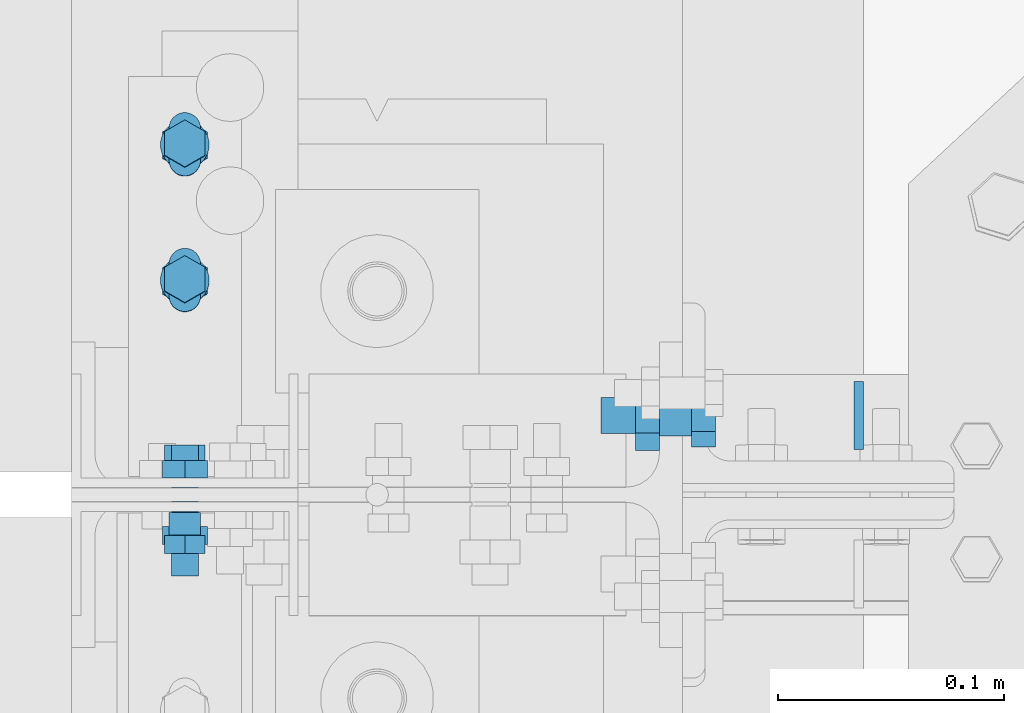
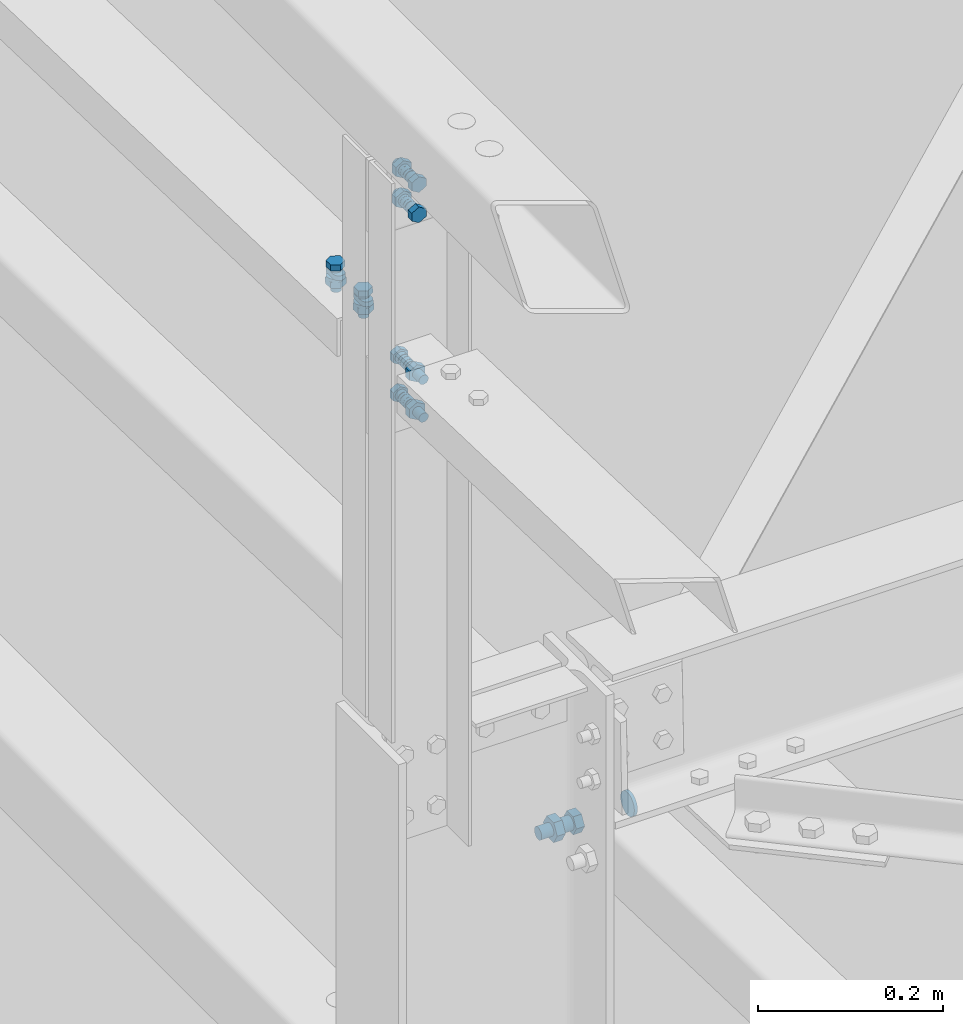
# One storey, part 237 of 362: 5 mechanical fasteners.
"""IFC2X3 building model written with IfcOpenShell, lengths in millimetres."""

import ifcopenshell
import ifcopenshell.guid

model = None  # the IFC model being written
_history = None  # IfcOwnerHistory: only IFC2X3 demands one
_inside = {}  # id of a spatial element -> (the spatial element, [elements in it])
_under = {}  # id of a project, library or spatial element -> (it, [spatial elements below it])
_declared = {}  # id of a project -> (the project, [libraries it declares])
_typed = {}  # id of a type object -> (the type object, [elements of that type])
_made_of = {}  # id of a material, layer set ... -> (it, [elements and type objects made of it])


def new_model(schema):
    """Start an empty IFC model of exactly this schema.

    Asked for "IFC4X3", IfcOpenShell would pick the latest addendum, in which some entities
    have other attributes; the version numbers below select the first issue.
    IFC2X3 requires an IfcOwnerHistory on every rooted entity: one is made here for all.
    """
    global model, _history
    if schema == "IFC4X3":
        model = ifcopenshell.file(schema_version=(4, 3, 0, 0))
    else:
        model = ifcopenshell.file(schema=schema)
    _inside.clear()
    _under.clear()
    _declared.clear()
    _typed.clear()
    _made_of.clear()
    _history = None
    if model.schema == "IFC2X3":
        org = make("IfcOrganization", Name="unknown")
        user = make(
            "IfcPersonAndOrganization",
            ThePerson=make("IfcPerson", FamilyName="unknown"),
            TheOrganization=org,
        )
        app = make(
            "IfcApplication",
            ApplicationDeveloper=org,
            Version="unknown",
            ApplicationFullName="unknown",
            ApplicationIdentifier="unknown",
        )
        _history = make(
            "IfcOwnerHistory",
            OwningUser=user,
            OwningApplication=app,
            ChangeAction="ADDED",
            CreationDate=0,
        )
    return model


def make(cls, **values):
    """One entity of the class cls with the attributes given. An attribute that is None is left unset."""
    return model.create_entity(
        cls, **{name: value for name, value in values.items() if value is not None}
    )


def rooted(cls, **values):
    """An entity with a GlobalId (a new one), such as an element, a storey or a relation."""
    return make(cls, GlobalId=ifcopenshell.guid.new(), OwnerHistory=_history, **values)


def si_unit(unit_type, name, prefix=None):
    """IfcSIUnit, for example si_unit("LENGTHUNIT", "METRE", prefix="MILLI")."""
    return make("IfcSIUnit", UnitType=unit_type, Prefix=prefix, Name=name)


def assignment(units):
    """IfcUnitAssignment: the units of a project."""
    return None if units is None else make("IfcUnitAssignment", Units=units)


def point(xyz):
    """IfcCartesianPoint."""
    return None if xyz is None else make("IfcCartesianPoint", Coordinates=xyz)


def direction(xyz):
    """IfcDirection."""
    return None if xyz is None else make("IfcDirection", DirectionRatios=xyz)


def frame(location, z_axis=None, x_axis=None):
    """IfcAxis2Placement3D, a coordinate frame: its origin and axes. An axis left out is left unset."""
    return make(
        "IfcAxis2Placement3D",
        Location=point(location),
        Axis=direction(z_axis),
        RefDirection=direction(x_axis),
    )


def frame_2d(location, x_axis=None):
    """IfcAxis2Placement2D, a coordinate frame in the plane: its origin and x axis."""
    return make(
        "IfcAxis2Placement2D", Location=point(location), RefDirection=direction(x_axis)
    )


def origin_with_axes():
    """The frame at (0, 0, 0) with the z axis (0, 0, 1) and the x axis (1, 0, 0) written out."""
    return frame((0.0, 0.0, 0.0), z_axis=(0.0, 0.0, 1.0), x_axis=(1.0, 0.0, 0.0))


def origin_2d_with_axis():
    """The frame at (0, 0) in the plane with the x axis (1, 0) written out."""
    return frame_2d((0.0, 0.0), x_axis=(1.0, 0.0))


def place(relative_to, where):
    """IfcLocalPlacement: puts the frame where relative to a parent placement (None: the world)."""
    return make(
        "IfcLocalPlacement", PlacementRelTo=relative_to, RelativePlacement=where
    )


def context(
    kind, dimensions, precision=None, world=None, true_north=None, identifier=None
):
    """IfcGeometricRepresentationContext, for example the 3D "Model" context."""
    return make(
        "IfcGeometricRepresentationContext",
        ContextIdentifier=identifier,
        ContextType=kind,
        CoordinateSpaceDimension=dimensions,
        Precision=precision,
        WorldCoordinateSystem=world,
        TrueNorth=true_north,
    )


def subcontext(parent, identifier, kind, view, scale=None):
    """IfcGeometricRepresentationSubContext, for example "Body" below "Model"."""
    return make(
        "IfcGeometricRepresentationSubContext",
        ContextIdentifier=identifier,
        ContextType=kind,
        ParentContext=parent,
        TargetScale=scale,
        TargetView=view,
    )


def project(units=None, contexts=None):
    """IfcProject with its units and contexts."""
    return rooted(
        "IfcProject",
        Name="project",
        RepresentationContexts=contexts,
        UnitsInContext=assignment(units),
    )


def spatial(cls, under=None, at=None, **own):
    """A site, building, storey or space (cls), placed at a placement, below another one or the project."""
    s = rooted(cls, ObjectPlacement=at, **own)
    if under is not None:
        _under.setdefault(under.id(), (under, []))[1].append(s)
    return s


def polyline(points):
    """IfcPolyline through the points."""
    return make("IfcPolyline", Points=[point(p) for p in points])


def circle_curve(where, radius):
    """IfcCircle in the frame where."""
    return make("IfcCircle", Position=where, Radius=radius)


def parameter(value):
    """IfcParameterValue: where a trimmed curve begins or ends, as a parameter of its basis curve."""
    return model.create_entity("IfcParameterValue", value)


def trimmed(basis, trim1, trim2, sense, master):
    """IfcTrimmedCurve: the piece of a basis curve between two trims."""
    return make(
        "IfcTrimmedCurve",
        BasisCurve=basis,
        Trim1=trim1,
        Trim2=trim2,
        SenseAgreement=sense,
        MasterRepresentation=master,
    )


def segment(curve, same_sense, transition):
    """IfcCompositeCurveSegment."""
    return make(
        "IfcCompositeCurveSegment",
        Transition=transition,
        SameSense=same_sense,
        ParentCurve=curve,
    )


def composite_curve(segments, self_intersect=None):
    """IfcCompositeCurve: segments joined end to end."""
    return make("IfcCompositeCurve", Segments=segments, SelfIntersect=self_intersect)


def profile(cls, at=None, kind="AREA", **sizes):
    """A parametric profile (cls). Its sizes go by their IFC names, for example OverallWidth=200.0."""
    return make(cls, ProfileType=kind, Position=at, **sizes)


def circle(**sizes):
    """IfcCircleProfileDef."""
    return profile("IfcCircleProfileDef", **sizes)


def outline(outer, holes=None, kind="AREA"):
    """IfcArbitraryClosedProfileDef: a profile drawn as a closed curve; with holes, ...WithVoids."""
    if holes is None:
        return make("IfcArbitraryClosedProfileDef", ProfileType=kind, OuterCurve=outer)
    return make(
        "IfcArbitraryProfileDefWithVoids",
        ProfileType=kind,
        OuterCurve=outer,
        InnerCurves=holes,
    )


def extrude(swept, where, along, depth):
    """IfcExtrudedAreaSolid: the profile swept, set in the frame where, extruded along a direction by depth."""
    return make(
        "IfcExtrudedAreaSolid",
        SweptArea=swept,
        Position=where,
        ExtrudedDirection=direction(along),
        Depth=depth,
    )


def shape(context_of_items, identifier, shape_type, items):
    """IfcShapeRepresentation: the items that make up one representation, for example the "Body"."""
    return make(
        "IfcShapeRepresentation",
        ContextOfItems=context_of_items,
        RepresentationIdentifier=identifier,
        RepresentationType=shape_type,
        Items=items,
    )


def source(mapping_origin, context_of_items, identifier, shape_type, items):
    """IfcRepresentationMap: a shape defined once, which mapped items show again and again."""
    return make(
        "IfcRepresentationMap",
        MappingOrigin=mapping_origin,
        MappedRepresentation=shape(context_of_items, identifier, shape_type, items),
    )


def transform(
    local_origin,
    x_axis=None,
    y_axis=None,
    z_axis=None,
    scale=None,
    scale2=None,
    scale3=None,
    uniform=True,
):
    """IfcCartesianTransformationOperator3D, or its non-uniform kind. x_axis, y_axis, z_axis: its Axis1, 2, 3."""
    if uniform:
        return make(
            "IfcCartesianTransformationOperator3D",
            Axis1=direction(x_axis),
            Axis2=direction(y_axis),
            LocalOrigin=point(local_origin),
            Scale=scale,
            Axis3=direction(z_axis),
        )
    return make(
        "IfcCartesianTransformationOperator3DnonUniform",
        Axis1=direction(x_axis),
        Axis2=direction(y_axis),
        LocalOrigin=point(local_origin),
        Scale=scale,
        Axis3=direction(z_axis),
        Scale2=scale2,
        Scale3=scale3,
    )


def mapped(mapping_source, mapping_target):
    """IfcMappedItem: shows the shape of a source again, moved by a transform."""
    return make(
        "IfcMappedItem", MappingSource=mapping_source, MappingTarget=mapping_target
    )


def material(Name=None, Category=None):
    """IfcMaterial."""
    return make("IfcMaterial", Name=Name, Category=Category)


def made_of(thing, what):
    """Note that an element or type object is made of a material, layer set ...; save() writes the relation."""
    if what is not None:
        _made_of.setdefault(what.id(), (what, []))[1].append(thing)
    return thing


def type_object(cls, material=None, **own):
    """A type object (cls), such as IfcWallType, which elements share."""
    return made_of(rooted(cls, **own), material)


def element(
    cls,
    number,
    at=None,
    inside=None,
    cuts=None,
    type_object=None,
    material=None,
    context=None,
    identifier="Body",
    shape_type=None,
    held_by="IfcProductDefinitionShape",
    body=None,
    shapes=None,
    **own,
):
    """One element of the class cls, such as IfcWall. Its Tag is "e" and its number.

    at: its placement. inside: the storey or other place that contains it. cuts: it is an
    opening in that element (IfcRelVoidsElement). A single representation is given by context,
    identifier, shape_type and body (its items); several are given by shapes. held_by: the class
    of the entity that holds the representations. save() writes the other relations.
    """
    e = rooted(cls, Tag="e%d" % number, ObjectPlacement=at, **own)
    if body is not None:
        shapes = [shape(context, identifier, shape_type, body)]
    if shapes is not None:
        e.Representation = make(held_by, Representations=shapes)
    if inside is not None:
        _inside.setdefault(inside.id(), (inside, []))[1].append(e)
    if cuts is not None:
        rooted(
            "IfcRelVoidsElement", RelatingBuildingElement=cuts, RelatedOpeningElement=e
        )
    if type_object is not None:
        _typed.setdefault(type_object.id(), (type_object, []))[1].append(e)
    return made_of(e, material)


def aggregate(whole, parts):
    """IfcRelAggregates: a whole, such as a stair, and the parts it consists of."""
    return rooted("IfcRelAggregates", RelatingObject=whole, RelatedObjects=parts)


def save(model, path):
    """Write the relations noted so far, then the file.

    IfcRelAggregates (storeys below a building ...), IfcRelContainedInSpatialStructure (elements
    in a storey), IfcRelDefinesByType, IfcRelAssociatesMaterial and IfcRelDeclares: one each for
    every whole, place, type object, material and project.
    """
    for whole, parts in _under.values():
        aggregate(whole, parts)
    for where, things in _inside.values():
        rooted(
            "IfcRelContainedInSpatialStructure",
            RelatedElements=things,
            RelatingStructure=where,
        )
    for kind, things in _typed.values():
        rooted("IfcRelDefinesByType", RelatedObjects=things, RelatingType=kind)
    for what, things in _made_of.values():
        rooted("IfcRelAssociatesMaterial", RelatedObjects=things, RelatingMaterial=what)
    for by, libraries in _declared.values():
        rooted("IfcRelDeclares", RelatingContext=by, RelatedDefinitions=libraries)
    model.write(path)


model = new_model("IFC2X3")

# Units and contexts
model_context = context("Model", 3, precision=1e-05, world=origin_with_axes())
body_context = subcontext(model_context, "Body", "Model", "MODEL_VIEW")
ifc_project = project(units=[si_unit("LENGTHUNIT", "METRE", prefix="MILLI"), si_unit("AREAUNIT", "SQUARE_METRE"), si_unit("VOLUMEUNIT", "CUBIC_METRE"), si_unit("MASSUNIT", "GRAM", prefix="KILO"), si_unit("TIMEUNIT", "SECOND"), si_unit("PLANEANGLEUNIT", "RADIAN"), si_unit("SOLIDANGLEUNIT", "STERADIAN"), si_unit("THERMODYNAMICTEMPERATUREUNIT", "DEGREE_CELSIUS"), si_unit("LUMINOUSINTENSITYUNIT", "LUMEN")], contexts=[model_context])

# Site, building, storey
site_placement = place(None, origin_with_axes())
site = spatial("IfcSite", under=ifc_project, at=site_placement, Name="Undefined", CompositionType="ELEMENT")
building_placement = place(site_placement, origin_with_axes())
building = spatial("IfcBuilding", under=site, at=building_placement, Name="Undefined", CompositionType="ELEMENT")
storey_placement = place(building_placement, origin_with_axes())
storey = spatial("IfcBuildingStorey", under=building, at=storey_placement, Name="Undefined", CompositionType="ELEMENT", Elevation=0.0)

# Mechanical fasteners
ifc_material_1 = material(Name="6.8")
mechanical_fastener_type = type_object("IfcMechanicalFastenerType", Name="Bolt assembly")
shared_shape_1 = source(origin_with_axes(), body_context, "Body", "SweptSolid", [
    extrude(circle(Radius=15.0, at=origin_2d_with_axis()), frame((0.0, 0.0, 0.0), z_axis=(0.0, 1.0, 0.0), x_axis=(1.0, 0.0, 0.0)), (0.0, 0.0, 1.0), 4.1),
])
mechanical_fastener_1_placement = place(storey_placement, frame((170.0, 11435.0, 7450.52203864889), z_axis=(0.0, 0.0, 1.0), x_axis=(0.0, 1.0, 0.0)))
element("IfcMechanicalFastener", 1, at=mechanical_fastener_1_placement, inside=storey, type_object=mechanical_fastener_type, material=ifc_material_1, Name="Bolt assembly", NominalDiameter=30.0, NominalLength=4.0, context=body_context, shape_type="MappedRepresentation", body=[
    mapped(shared_shape_1, transform((0.0, 0.0, 0.0))),
])
ifc_material_2 = material(Name="8.8-SB-ZINGUE")
shared_shape_2 = source(origin_with_axes(), body_context, "Body", "SweptSolid", [
    extrude(circle(Radius=9.0, at=origin_2d_with_axis()), frame((0.0, -0.100011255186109, 0.0), z_axis=(0.0, 1.0, 0.0), x_axis=(1.0, 0.0, 0.0)), (0.0, 0.0, 1.0), 10.3),
    extrude(circle(Radius=9.0, at=origin_2d_with_axis()), frame((0.0, -3.89999843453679, 0.0), z_axis=(0.0, 1.0, 0.0), x_axis=(1.0, 0.0, 0.0)), (0.0, 0.0, 1.0), 4.0),
    extrude(outline(polyline([(13.85640646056, 0.0), (6.92820323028, 12.0000000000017), (-6.92820323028, 12.0000000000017), (-13.85640646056, 0.0), (-6.92820323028, -12.0000000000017), (6.92820323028, -12.0000000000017), (13.85640646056, 0.0)])), frame((0.0, -14.560000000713, 0.0), z_axis=(0.0, 1.0, 0.0), x_axis=(1.0, 0.0, 0.0)), (0.0, 0.0, 1.0), 10.56),
    extrude(circle(Radius=8.0, at=origin_2d_with_axis()), frame((0.0, -3.99999923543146, 0.0), z_axis=(0.0, 1.0, 0.0), x_axis=(1.0, 0.0, 0.0)), (0.0, 0.0, 1.0), 40.0),
    extrude(outline(polyline([(15.3344231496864, 0.0), (7.6672115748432, 13.2800000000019), (-7.6672115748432, 13.2800000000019), (-15.3344231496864, 0.0), (-7.6672115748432, -13.2800000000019), (7.6672115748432, -13.2800000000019), (15.3344231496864, 0.0)])), frame((0.0, 10.1999997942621, 0.0), z_axis=(0.0, 1.0, 0.0), x_axis=(1.0, 0.0, 0.0)), (0.0, 0.0, 1.0), 10.56),
])
mechanical_fastener_2_placement = place(storey_placement, frame((90.0, 11435.0, 7450.52203864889), z_axis=(0.0, 0.0, 1.0), x_axis=(0.0, 1.0, 0.0)))
element("IfcMechanicalFastener", 2, at=mechanical_fastener_2_placement, inside=storey, type_object=mechanical_fastener_type, material=ifc_material_2, Name="Bolt assembly", NominalDiameter=16.0, NominalLength=40.0, context=body_context, shape_type="MappedRepresentation", body=[
    mapped(shared_shape_2, transform((0.0, 0.0, 0.0))),
])
shared_shape_3 = source(origin_with_axes(), body_context, "Body", "SweptSolid", [
    extrude(circle(Radius=7.0, at=origin_2d_with_axis()), frame((0.0, -13.9091475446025, 0.0), z_axis=(0.0, 1.0, 0.0), x_axis=(1.0, 0.0, 0.0)), (0.0, 0.0, 1.0), 6.0),
    extrude(circle(Radius=7.0, at=origin_2d_with_axis()), frame((0.0, -7.29999968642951, 0.0), z_axis=(0.0, 1.0, 0.0), x_axis=(1.0, 0.0, 0.0)), (0.0, 0.0, 1.0), 4.0),
    extrude(circle(Radius=7.0, at=origin_2d_with_axis()), frame((0.0, -2.99999932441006, 0.0), z_axis=(0.0, 1.0, 0.0), x_axis=(1.0, 0.0, 0.0)), (0.0, 0.0, 1.0), 6.0),
    extrude(circle(Radius=7.0, at=origin_2d_with_axis()), frame((0.0, 3.29999995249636, 0.0), z_axis=(0.0, 1.0, 0.0), x_axis=(1.0, 0.0, 0.0)), (0.0, 0.0, 1.0), 4.0),
    extrude(circle(Radius=7.0, at=origin_2d_with_axis()), frame((0.0, 7.89999289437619, 0.0), z_axis=(0.0, 1.0, 0.0), x_axis=(1.0, 0.0, 0.0)), (0.0, 0.0, 1.0), 6.1),
    extrude(outline(polyline([(10.39230484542, 0.0), (5.19615242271, 9.00000000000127), (-5.19615242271, 9.00000000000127), (-10.39230484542, 0.0), (-5.19615242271, -9.00000000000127), (5.19615242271, -9.00000000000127), (10.39230484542, 0.0)])), frame((0.0, -21.9291475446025, 0.0), z_axis=(0.0, 1.0, 0.0), x_axis=(1.0, 0.0, 0.0)), (0.0, 0.0, 1.0), 7.92),
    extrude(circle(Radius=6.0, at=origin_2d_with_axis()), frame((0.0, -14.0091475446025, 0.0), z_axis=(0.0, 1.0, 0.0), x_axis=(1.0, 0.0, 0.0)), (0.0, 0.0, 1.0), 50.0),
    extrude(outline(polyline([(11.5008173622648, 0.0), (5.7504086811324, 9.96000000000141), (-5.7504086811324, 9.96000000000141), (-11.5008173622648, 0.0), (-5.7504086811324, -9.96000000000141), (5.7504086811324, -9.96000000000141), (11.5008173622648, 0.0)])), frame((0.0, 13.9999928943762, 0.0), z_axis=(0.0, 1.0, 0.0), x_axis=(1.0, 0.0, 0.0)), (0.0, 0.0, 1.0), 7.92),
])
mechanical_fastener_3_placement = place(storey_placement, frame((-129.999999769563, 11400.0, 8107.99910819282), z_axis=(1.0, 0.0, 0.0), x_axis=(0.0, 0.0, 1.0)))
element("IfcMechanicalFastener", 3, at=mechanical_fastener_3_placement, inside=storey, type_object=mechanical_fastener_type, material=ifc_material_2, Name="Bolt assembly", NominalDiameter=12.0, NominalLength=50.0, context=body_context, shape_type="MappedRepresentation", body=[
    mapped(shared_shape_3, transform((0.0, 0.0, 0.0))),
    mapped(shared_shape_3, transform((49.9999999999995, 0.0, -3.63797880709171e-12))),
])
shared_shape_4 = source(origin_with_axes(), body_context, "Body", "SweptSolid", [
    extrude(circle(Radius=7.0, at=origin_2d_with_axis()), frame((0.0, 3.1564755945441, 0.0), z_axis=(0.0, 1.0, 0.0), x_axis=(1.0, 0.0, 0.0)), (0.0, 0.0, 1.0), 4.1),
    extrude(circle(Radius=7.0, at=origin_2d_with_axis()), frame((0.0, -3.0435243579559, 0.0), z_axis=(0.0, 1.0, 0.0), x_axis=(1.0, 0.0, 0.0)), (0.0, 0.0, 1.0), 6.0),
    extrude(circle(Radius=7.0, at=origin_2d_with_axis()), frame((0.0, -7.3435243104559, 0.0), z_axis=(0.0, 1.0, 0.0), x_axis=(1.0, 0.0, 0.0)), (0.0, 0.0, 1.0), 4.0),
    extrude(circle(Radius=7.0, at=origin_2d_with_axis()), frame((0.0, -17.9435243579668, 0.0), z_axis=(0.0, 1.0, 0.0), x_axis=(1.0, 0.0, 0.0)), (0.0, 0.0, 1.0), 10.0),
    extrude(outline(polyline([(10.39230484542, 0.0), (5.19615242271, 9.00000000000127), (-5.19615242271, 9.00000000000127), (-10.39230484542, 0.0), (-5.19615242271, -9.00000000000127), (5.19615242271, -9.00000000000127), (10.39230484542, 0.0)])), frame((0.0, -25.9635243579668, 0.0), z_axis=(0.0, 1.0, 0.0), x_axis=(1.0, 0.0, 0.0)), (0.0, 0.0, 1.0), 7.92),
    extrude(circle(Radius=6.0, at=origin_2d_with_axis()), frame((0.0, -18.0435243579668, 0.0), z_axis=(0.0, 1.0, 0.0), x_axis=(1.0, 0.0, 0.0)), (0.0, 0.0, 1.0), 40.0),
    extrude(outline(polyline([(11.5008173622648, 0.0), (5.7504086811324, 9.96000000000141), (-5.7504086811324, 9.96000000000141), (-11.5008173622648, 0.0), (-5.7504086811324, -9.96000000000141), (5.7504086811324, -9.96000000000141), (11.5008173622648, 0.0)])), frame((0.0, 7.2564755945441, 0.0), z_axis=(0.0, 1.0, 0.0), x_axis=(1.0, 0.0, 0.0)), (0.0, 0.0, 1.0), 7.92),
])
mechanical_fastener_4_placement = place(storey_placement, frame((-129.999999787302, 11400.043524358, 8370.0), z_axis=(-1.0, 0.0, 0.0), x_axis=(0.0, 0.0, 1.0)))
element("IfcMechanicalFastener", 4, at=mechanical_fastener_4_placement, inside=storey, type_object=mechanical_fastener_type, material=ifc_material_2, Name="Bolt assembly", NominalDiameter=12.0, NominalLength=40.0, context=body_context, shape_type="MappedRepresentation", body=[
    mapped(shared_shape_4, transform((0.0, 0.0, 0.0))),
    mapped(shared_shape_4, transform((40.0, 0.0, 0.0))),
])
shared_shape_5 = source(origin_with_axes(), body_context, "Body", "SweptSolid", [
    extrude(circle(Radius=7.0, at=origin_2d_with_axis()), frame((0.0, -3.89484378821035, 0.0), z_axis=(0.0, 1.0, 0.0), x_axis=(1.0, 0.0, 0.0)), (0.0, 0.0, 1.0), 4.0),
    extrude(outline(composite_curve([segment(polyline([(-7.0, 7.0), (7.0, 7.0)]), True, "CONTINUOUS"), segment(trimmed(circle_curve(frame_2d((7.0, 0.0), x_axis=(0.0, 1.0)), 7.0), [parameter(0.0)], [parameter(3.14159265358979)], False, "PARAMETER"), True, "CONTINUOUS"), segment(polyline([(7.0, -7.0), (-7.0, -7.0)]), True, "CONTINUOUS"), segment(trimmed(circle_curve(frame_2d((-7.0, 0.0), x_axis=(0.0, -1.0)), 7.0), [parameter(0.0)], [parameter(3.14159265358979)], False, "PARAMETER"), True, "DISCONTINUOUS")], self_intersect=False)), frame((0.0, -0.100011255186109, 0.0), z_axis=(0.0, 1.0, 0.0), x_axis=(1.0, 0.0, 0.0)), (0.0, 0.0, 1.0), 6.1),
    extrude(outline(polyline([(10.39230484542, 0.0), (5.19615242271, 9.00000000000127), (-5.19615242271, 9.00000000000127), (-10.39230484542, 0.0), (-5.19615242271, -9.00000000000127), (5.19615242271, -9.00000000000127), (10.39230484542, 0.0)])), frame((0.0, -11.9148437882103, 0.0), z_axis=(0.0, 1.0, 0.0), x_axis=(1.0, 0.0, 0.0)), (0.0, 0.0, 1.0), 7.92),
    extrude(circle(Radius=6.0, at=origin_2d_with_axis()), frame((0.0, -3.99484378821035, 0.0), z_axis=(0.0, 1.0, 0.0), x_axis=(1.0, 0.0, 0.0)), (0.0, 0.0, 1.0), 30.0),
    extrude(circle(Radius=10.8, at=origin_2d_with_axis()), frame((0.0, 6.0, 0.0), z_axis=(0.0, 1.0, 0.0), x_axis=(1.0, 0.0, 0.0)), (0.0, 0.0, 1.0), 3.96),
    extrude(outline(polyline([(11.5008173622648, 0.0), (5.7504086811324, 9.96000000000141), (-5.7504086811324, 9.96000000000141), (-11.5008173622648, 0.0), (-5.7504086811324, -9.96000000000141), (5.7504086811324, -9.96000000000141), (11.5008173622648, 0.0)])), frame((0.0, 9.9600084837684, 0.0), z_axis=(0.0, 1.0, 0.0), x_axis=(1.0, 0.0, 0.0)), (0.0, 0.0, 1.0), 7.92),
])
mechanical_fastener_5_placement = place(storey_placement, frame((-129.999999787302, 11554.9555719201, 8188.12886622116), z_axis=(1.0, 0.0, 0.0), x_axis=(0.0, -0.999506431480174, 0.0314148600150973)))
element("IfcMechanicalFastener", 5, at=mechanical_fastener_5_placement, inside=storey, type_object=mechanical_fastener_type, material=ifc_material_2, Name="Bolt assembly", NominalDiameter=12.0, NominalLength=30.0, context=body_context, shape_type="MappedRepresentation", body=[
    mapped(shared_shape_5, transform((0.0, 0.0, 0.0))),
    mapped(shared_shape_5, transform((60.0, 0.0, 0.0))),
])

save(model, "model.ifc")
